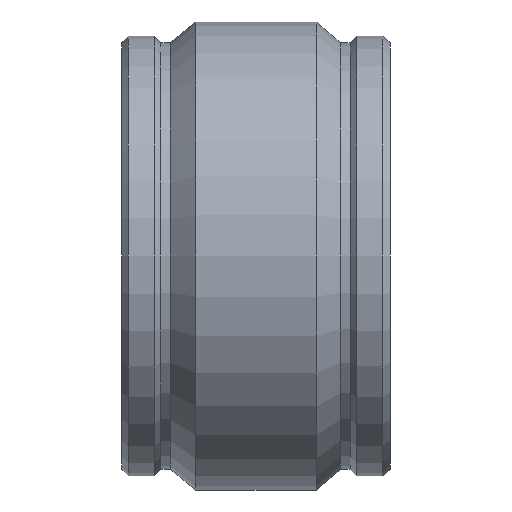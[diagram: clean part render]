
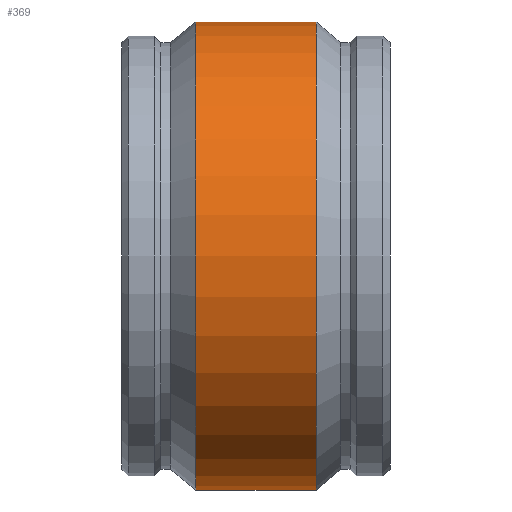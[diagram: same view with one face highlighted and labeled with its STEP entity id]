
A CAD part, front view. The second image highlights one B-rep face of the part: STEP entity #369.
In plain terms, the highlighted cylindrical face has radius 327.914 mm (diameter 655.828 mm), a full revolution.
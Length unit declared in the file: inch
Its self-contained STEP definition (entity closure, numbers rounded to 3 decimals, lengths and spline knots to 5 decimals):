
#17=CYLINDRICAL_SURFACE('',#423,12.91);
#28=LINE('',#646,#44);
#44=VECTOR('',#516,12.91);
#73=FACE_OUTER_BOUND('',#94,.T.);
#94=EDGE_LOOP('',(#281,#282,#283,#284,#285,#286));
#123=CIRCLE('',#421,12.91);
#124=CIRCLE('',#422,12.91);
#125=CIRCLE('',#424,12.91);
#126=CIRCLE('',#425,12.91);
#163=VERTEX_POINT('',#636);
#164=VERTEX_POINT('',#637);
#165=VERTEX_POINT('',#642);
#166=VERTEX_POINT('',#643);
#207=EDGE_CURVE('',#163,#164,#123,.T.);
#208=EDGE_CURVE('',#164,#163,#124,.T.);
#210=EDGE_CURVE('',#165,#166,#125,.T.);
#211=EDGE_CURVE('',#166,#165,#126,.T.);
#212=EDGE_CURVE('',#166,#164,#28,.T.);
#281=ORIENTED_EDGE('',*,*,#210,.F.);
#282=ORIENTED_EDGE('',*,*,#211,.F.);
#283=ORIENTED_EDGE('',*,*,#212,.T.);
#284=ORIENTED_EDGE('',*,*,#208,.T.);
#285=ORIENTED_EDGE('',*,*,#207,.T.);
#286=ORIENTED_EDGE('',*,*,#212,.F.);
#369=ADVANCED_FACE('',(#73),#17,.T.);
#421=AXIS2_PLACEMENT_3D('',#638,#505,#506);
#422=AXIS2_PLACEMENT_3D('',#639,#507,#508);
#423=AXIS2_PLACEMENT_3D('',#641,#510,#511);
#424=AXIS2_PLACEMENT_3D('',#644,#512,#513);
#425=AXIS2_PLACEMENT_3D('',#645,#514,#515);
#505=DIRECTION('center_axis',(1.,0.,0.));
#506=DIRECTION('ref_axis',(0.,0.,-1.));
#507=DIRECTION('center_axis',(1.,0.,0.));
#508=DIRECTION('ref_axis',(0.,0.,-1.));
#510=DIRECTION('center_axis',(1.,0.,0.));
#511=DIRECTION('ref_axis',(0.,1.,0.));
#512=DIRECTION('center_axis',(1.,0.,0.));
#513=DIRECTION('ref_axis',(0.,0.,-1.));
#514=DIRECTION('center_axis',(1.,0.,0.));
#515=DIRECTION('ref_axis',(0.,0.,-1.));
#516=DIRECTION('',(-1.,0.,0.));
#636=CARTESIAN_POINT('',(-3.33,12.91,0.));
#637=CARTESIAN_POINT('',(-3.33,-12.91,0.));
#638=CARTESIAN_POINT('Origin',(-3.33,0.,0.));
#639=CARTESIAN_POINT('Origin',(-3.33,0.,0.));
#641=CARTESIAN_POINT('Origin',(0.,0.,0.));
#642=CARTESIAN_POINT('',(3.33,12.91,0.));
#643=CARTESIAN_POINT('',(3.33,-12.91,0.));
#644=CARTESIAN_POINT('Origin',(3.33,0.,0.));
#645=CARTESIAN_POINT('Origin',(3.33,0.,0.));
#646=CARTESIAN_POINT('',(0.,-12.91,0.));
